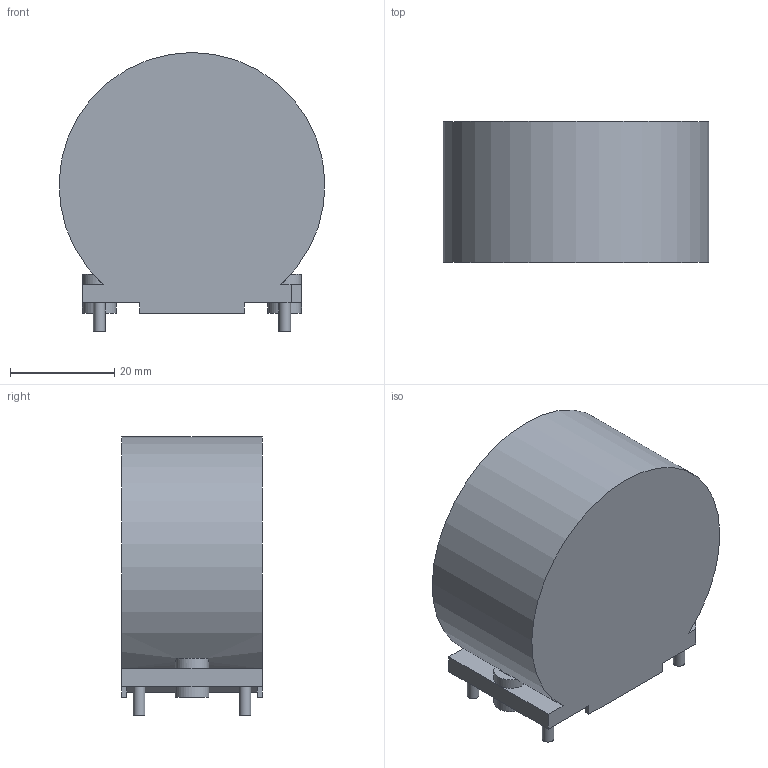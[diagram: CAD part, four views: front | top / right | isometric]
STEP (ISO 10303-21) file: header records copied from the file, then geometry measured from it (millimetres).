
FILE_DESCRIPTION(/* description */ (''),/* implementation_level */ '2;1');
FILE_NAME(/* name */ 'F:\Done\2016\多产品3D模拟\\X2\4FEE653994885F84\X0\\6128-X031\6128-X031 3D Model.stp',/* time_stamp */ '2016-07-11T08:52:28+08:00',/* author */ ('CN000562'),/* organization */ (''),/* preprocessor_version */ 'ST-DEVELOPER v16.5',/* originating_system */ 'Autodesk Inventor 2017',/* authorisation */ '');
FILE_SCHEMA (('AUTOMOTIVE_DESIGN { 1 0 10303 214 3 1 1 }'));
Length unit declared in the file: millimetre
Products named in the file (1): 6126-X216 3D Model
Bounding box: 50.99 x 27 x 53.5 mm (x, y, z)
Volume: 55704.1 mm3; surface area: 9398.2 mm2
Topology: 1 solids, 1 shells, 57 faces, 142 edges, 93 vertices
Faces by surface type: plane 48, cylinder 9
Full cylindrical faces by diameter (mm): 2.24 x4, 6.44 x2
Entity records: 1683 total; most frequent: CARTESIAN_POINT 305, DIRECTION 271, ORIENTED_EDGE 270, EDGE_CURVE 135, LINE 107, VECTOR 107, VERTEX_POINT 92, AXIS2_PLACEMENT_3D 82
